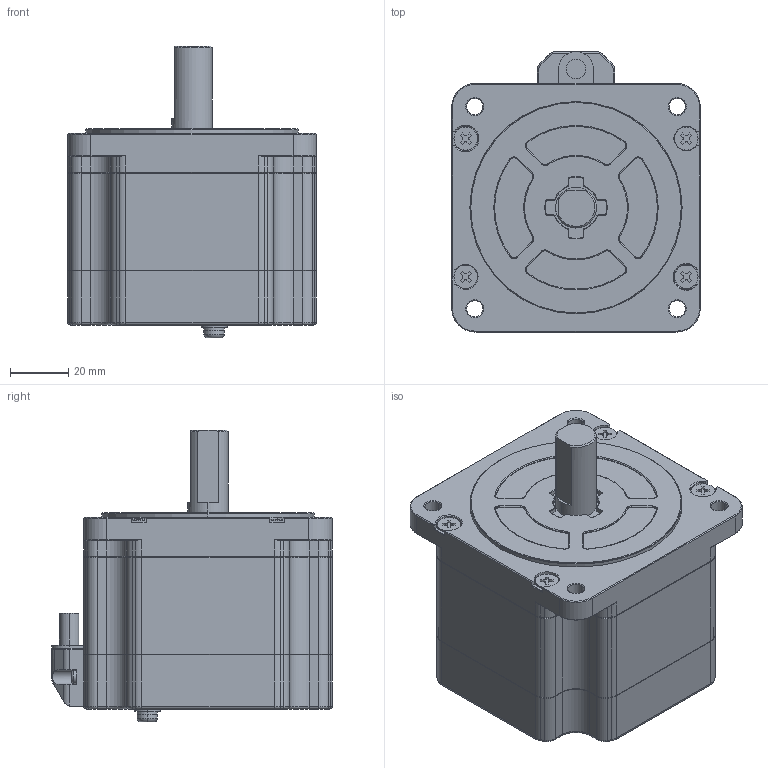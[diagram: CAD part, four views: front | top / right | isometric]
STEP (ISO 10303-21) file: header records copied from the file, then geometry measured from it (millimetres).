
FILE_DESCRIPTION (( 'STEP AP203' ), '1' );
FILE_NAME ('SM2861-5251.STEP', '2012-06-27T12:13:58', ( 'sanyodenki-admin' ), ( '' ), 'SwSTEP 2.0', 'SolidWorks 2011', '' );
FILE_SCHEMA (( 'CONFIG_CONTROL_DESIGN' ));
Length unit declared in the file: millimetre
Products named in the file (1): SM2861-5251
Bounding box: 85.5 x 96.5 x 100.4 mm (x, y, z)
Volume: 444805.3 mm3; surface area: 38971.4 mm2
Topology: 1 solids, 1 shells, 775 faces, 1953 edges, 1201 vertices
Faces by surface type: plane 291, cylinder 272, cone 146, torus 66
Entity records: 23285 total; most frequent: DIRECTION 4276, CARTESIAN_POINT 4076, ORIENTED_EDGE 3906, EDGE_CURVE 1953, AXIS2_PLACEMENT_3D 1581, VERTEX_POINT 1201, VECTOR 1114, LINE 1114
